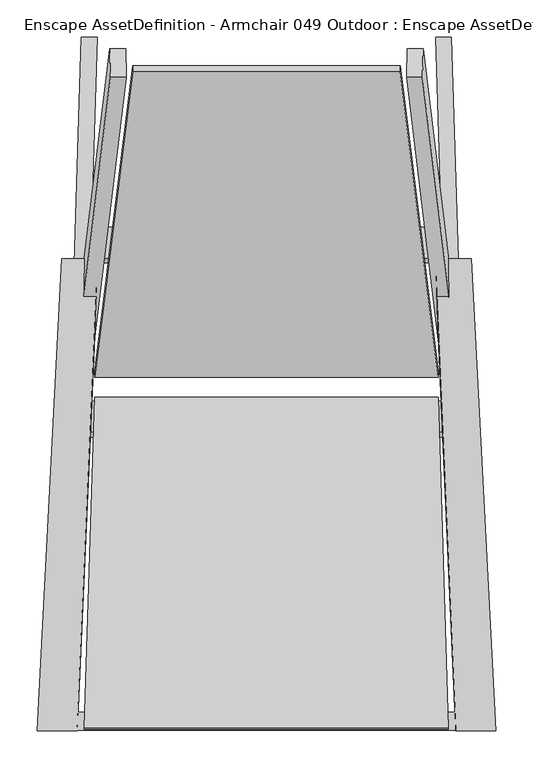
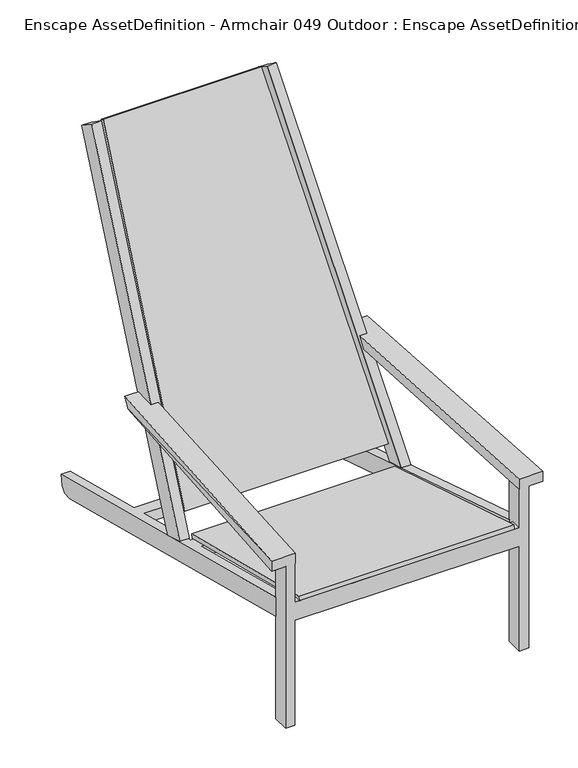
"""IFC4 building model written with IfcOpenShell, lengths in millimetres: geographic element geometry, Enscape AssetDefinition - Armchair 049 Outdoor : Enscape AssetDefinition - Armchair 049 Outdoor."""

from ifc_helpers import new_model, si_unit, origin, place, context, project, spatial, triangles, source, transform, mapped, element, save


def enscape_assetdefinition_armchair_049_outdoor_enscape_4ad17b57(model_context):
    return source(origin(), model_context, "Body", "Tessellation", [
        triangles([(255.2079871, -424.1200061, 0.0), (276.6340048, -424.1200061, 389.6240012), (276.6340048, -463.2539909, 0.0), (255.2079871, -463.2539909, 0.0), (255.2079871, -424.1200061, 389.6240012), (276.6340048, -463.2539909, 389.6240012), (255.2079871, -463.2539909, 389.6240012), (276.6340048, -424.1200061, 0.0), (-276.6340048, -463.2539909, 0.0), (-255.2079871, -463.2539909, 0.0), (-276.6340048, -424.1200061, 0.0), (-255.2079871, -463.2539909, 389.6240012), (-255.2079871, -424.1200061, 0.0), (-276.6340048, -424.1200061, 389.6240012), (-276.6340048, -463.2539909, 389.6240012), (-255.2079871, -424.1200061, 389.6240012), (254.5819897, -463.1909861, 413.5489944), (254.583007, -463.1909861, 389.6080138), (308.2189774, -463.2539909, 389.6240012), (308.2179963, -463.2539909, 413.5650181), (275.2340176, 171.6330012, 413.5650181), (275.2349987, 159.0850026, 389.6240012), (226.7280031, 171.6710076, 413.5549896), (227.0730038, 159.123009, 389.6139728), (-308.2189774, -463.2539909, 389.6240012), (-254.5819897, -463.1909861, 413.5489944), (-227.0730038, 159.123009, 389.6139728), (-226.7280031, 171.6710076, 413.5549896), (-275.2340176, 171.6330012, 413.5650181), (-308.2179963, -463.2539909, 413.5650181), (-275.2349987, 159.0850026, 389.6240012), (-254.583007, -463.1909861, 389.6080138), (255.4230175, -424.871014, 292.4489915), (255.412008, -424.5269943, 246.8909984), (276.8380076, -424.5269943, 246.8909984), (276.8479816, -424.871014, 292.4489915), (227.4049966, 469.2070069, 35.5039988), (228.5449888, 432.9229935, 0.067), (227.5699938, 463.964994, 11.4520002), (248.8309962, 469.2070069, 35.5039988), (249.9710066, 432.9229935, 0.067), (249.3349989, 453.1579865, 0.363), (227.9089993, 453.1579865, 0.363), (248.9960116, 463.964994, 11.4520002), (-276.8380076, -424.5269943, 246.8909984), (-249.9710066, 432.9229935, 0.067), (-255.412008, -424.5269943, 246.8909984), (-248.8309962, 469.2070069, 35.5039988), (-276.8479816, -424.871014, 292.4489915), (-255.4230175, -424.871014, 292.4489915), (-227.4049966, 469.2070069, 35.5039988), (-248.9960116, 463.964994, 11.4520002), (-227.5699938, 463.964994, 11.4520002), (-227.9089993, 453.1579865, 0.363), (-228.5449888, 432.9229935, 0.067), (-249.3349989, 453.1579865, 0.363), (255.2079871, -438.026025, 295.5920046), (-255.2079871, -438.026025, 295.5920046), (-255.2079871, -462.2789778, 295.5920046), (-255.2079871, -438.026025, 251.9559872), (-255.2079871, -462.2789778, 251.9559872), (255.2079871, -462.2789778, 295.5920046), (255.2079871, -462.2789778, 251.9559872), (255.2079871, -438.026025, 251.9559872), (-255.2079871, 213.5610015, 104.291999), (255.2079871, 171.545997, 116.0750007), (255.2079871, 207.9509879, 84.2870064), (255.2079871, 213.5610015, 104.291999), (-255.2079871, 207.9509879, 84.2870064), (255.2079871, 165.9360015, 96.069999), (-255.2079871, 171.545997, 116.0750007), (-255.2079871, 165.9360015, 96.069999), (255.2079871, -20.0350007, 170.0039945), (255.2079871, -26.3170006, 147.6049984), (-255.2079871, -26.3170006, 147.6049984), (-255.2079871, -62.0509999, 181.7869962), (-255.2079871, -20.0350007, 170.0039945), (255.2079871, -62.0509999, 181.7869962), (255.2079871, -68.333002, 159.3880001), (-255.2079871, -68.333002, 159.3880001), (262.8220027, -22.1389989, 177.8889965), (241.3960031, -22.1389989, 177.8889965), (241.4479985, 24.2660016, 164.2010057), (188.3789994, 415.0419991, 897.3530027), (209.804999, 415.0419991, 897.3530027), (189.3549936, 453.5070205, 870.8369614), (262.8740162, 24.2660016, 164.2010057), (210.7809932, 453.5070205, 870.8369614), (-262.8220027, -22.1389989, 177.8889965), (-189.3549936, 453.5070205, 870.8369614), (-262.8740162, 24.2660016, 164.2010057), (-241.3960031, -22.1389989, 177.8889965), (-210.7809932, 453.5070205, 870.8369614), (-241.4479985, 24.2660016, 164.2010057), (-188.3789994, 415.0419991, 897.3530027), (-209.804999, 415.0419991, 897.3530027), (-231.0740132, -16.9410001, 171.0599984), (244.7340079, -461.6200064, 295.5490022), (-244.7340079, -461.6200064, 295.5490022), (-244.7340079, -459.2140122, 304.7500031), (-231.0740132, -14.534, 180.2609993), (231.0740132, -14.534, 180.2609993), (231.0740132, -16.9410001, 171.0599984), (244.7340079, -459.2140122, 304.7500031), (-231.0740132, 12.1750006, 218.5850045), (179.9879963, 422.4560088, 894.3829805), (-231.0740132, 20.2890005, 213.6230072), (-179.9879963, 430.5700121, 889.4210014), (231.0740132, 20.2890005, 213.6230072), (179.9879963, 430.5700121, 889.4210014), (-179.9879963, 422.4560088, 894.3829805), (231.0740132, 12.1750006, 218.5850045)], [[107, 109, 112], [105, 112, 106], [105, 111, 108], [111, 106, 110], [108, 110, 109], [110, 106, 112], [107, 112, 105], [105, 106, 111], [105, 108, 107], [111, 110, 108], [108, 109, 107], [110, 112, 109], [101, 97, 99], [100, 104, 102], [99, 98, 104], [97, 103, 98], [101, 102, 103], [102, 104, 98], [101, 99, 100], [100, 102, 101], [99, 104, 100], [97, 98, 99], [101, 103, 97], [102, 98, 103], [96, 95, 90], [91, 96, 93], [96, 90, 93], [96, 92, 95], [93, 90, 94], [95, 92, 94], [93, 94, 91], [95, 94, 90], [91, 89, 96], [96, 89, 92], [89, 91, 94], [89, 94, 92], [85, 87, 88], [86, 85, 88], [86, 84, 85], [82, 85, 84], [85, 81, 87], [82, 81, 85], [83, 86, 88], [84, 86, 83], [83, 87, 81], [83, 88, 87], [84, 83, 82], [83, 81, 82], [74, 79, 80], [79, 76, 80], [79, 78, 76], [78, 77, 76], [75, 80, 76], [75, 76, 77], [74, 80, 75], [78, 73, 77], [73, 78, 79], [73, 74, 75], [73, 79, 74], [73, 75, 77], [69, 72, 71], [70, 71, 72], [69, 71, 65], [68, 69, 65], [68, 67, 69], [67, 70, 72], [67, 72, 69], [70, 66, 71], [66, 68, 65], [66, 70, 67], [66, 65, 71], [66, 67, 68], [64, 63, 61], [61, 59, 58], [63, 62, 59], [62, 57, 58], [57, 64, 60], [57, 62, 63], [64, 61, 60], [61, 58, 60], [63, 59, 61], [62, 58, 59], [57, 60, 58], [57, 63, 64], [54, 56, 52], [56, 46, 52], [55, 46, 56], [46, 55, 47], [55, 56, 54], [54, 53, 55], [54, 52, 53], [53, 51, 55], [48, 51, 53], [48, 52, 46], [48, 53, 52], [48, 46, 49], [50, 51, 48], [51, 50, 55], [50, 48, 49], [50, 47, 55], [46, 45, 49], [45, 47, 50], [46, 47, 45], [45, 50, 49], [43, 39, 44], [43, 44, 42], [41, 42, 44], [40, 41, 44], [40, 36, 41], [39, 40, 44], [39, 37, 40], [38, 43, 42], [39, 43, 38], [37, 39, 38], [38, 42, 41], [34, 38, 41], [33, 36, 40], [38, 34, 33], [33, 40, 37], [37, 38, 33], [35, 41, 36], [35, 36, 33], [34, 41, 35], [35, 33, 34], [31, 27, 32], [31, 32, 25], [30, 31, 25], [29, 28, 27], [30, 29, 31], [29, 27, 31], [27, 28, 26], [26, 30, 25], [26, 28, 29], [27, 26, 32], [26, 25, 32], [26, 29, 30], [22, 20, 19], [18, 22, 19], [18, 24, 22], [24, 23, 21], [22, 21, 20], [24, 21, 22], [17, 23, 24], [19, 20, 17], [17, 20, 21], [17, 24, 18], [19, 17, 18], [17, 21, 23], [15, 14, 11], [16, 14, 15], [16, 15, 12], [16, 12, 10], [14, 16, 13], [14, 13, 11], [16, 10, 13], [12, 15, 9], [9, 11, 13], [12, 9, 10], [15, 11, 9], [9, 13, 10], [8, 2, 6], [6, 2, 5], [6, 5, 7], [4, 7, 5], [3, 6, 7], [3, 7, 4], [8, 6, 3], [1, 5, 2], [1, 8, 3], [1, 2, 8], [4, 5, 1], [1, 3, 4]]),
    ])


if __name__ == "__main__":
    model = new_model("IFC4")
    model_context = context("Model", 3, world=origin())
    ifc_project = project(units=[si_unit("LENGTHUNIT", "METRE", prefix="MILLI")], contexts=[model_context])
    site = spatial("IfcSite", under=ifc_project)
    building = spatial("IfcBuilding", under=site)
    placement = place(None, origin())
    enscape_assetdefinition_armchair_049_outdoor_enscape_shape = enscape_assetdefinition_armchair_049_outdoor_enscape_4ad17b57(model_context)
    element("IfcGeographicElement", 1, ObjectType="Enscape AssetDefinition - Armchair 049 Outdoor : Enscape AssetDefinition - Armchair 049 Outdoor", at=placement, inside=building, context=model_context, shape_type="MappedRepresentation", body=[
        mapped(enscape_assetdefinition_armchair_049_outdoor_enscape_shape, transform((0.0, 0.0, 0.0), x_axis=(1.0, 0.0, 0.0), y_axis=(0.0, 1.0, 0.0), z_axis=(0.0, 0.0, 1.0))),
    ])
    save(model, "model.ifc")
